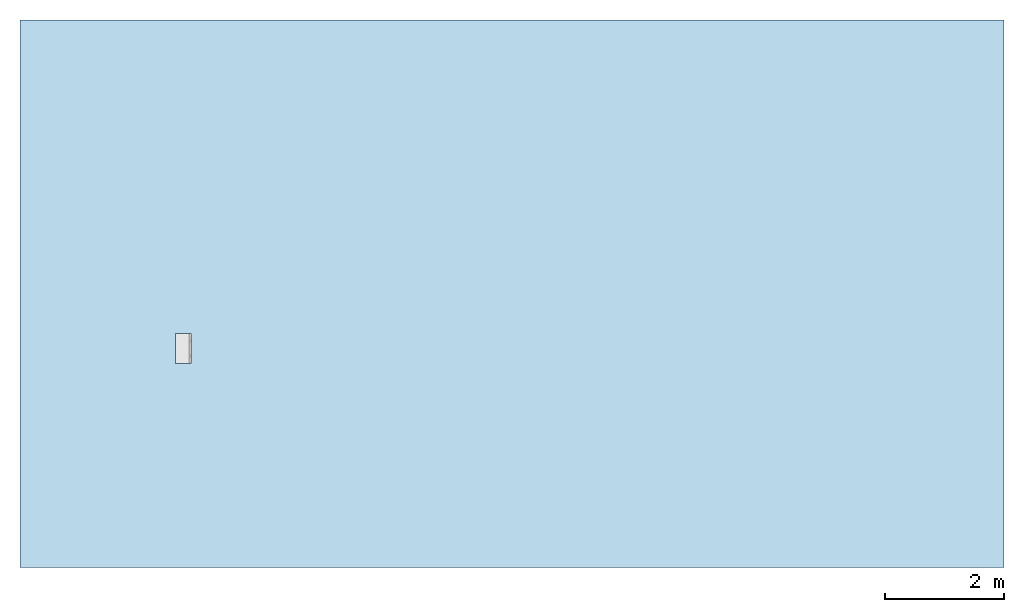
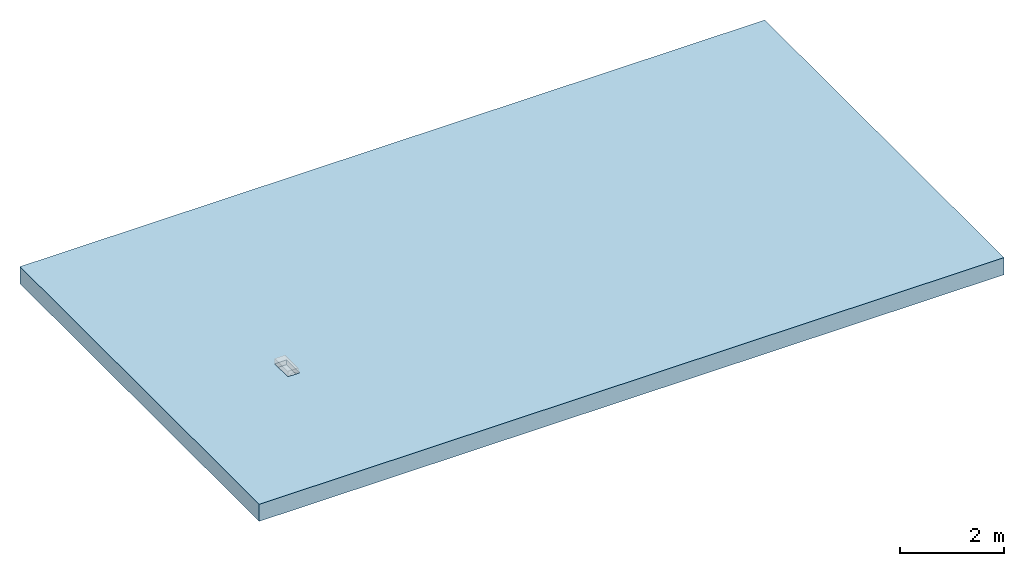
# One storey, part 1 of 2: 1 slab, 1 opening.
"""IFC2X3 building model written with IfcOpenShell, lengths in millimetres."""

from ifc_helpers import new_model, entity, si_unit, converted_unit, direction, frame, frame_2d, origin, origin_2d_with_axis, place, context, subcontext, project, spatial, rectangle, extrude, material, layer, layer_set, layer_usage, element, save


model = new_model("IFC2X3")

# Units and contexts
model_context = context("Model", 3, precision=1e-06, world=origin(), true_north=direction((2.0, 6.12303176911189e-17, 1.0)))
context_of_model = context(None, 3, precision=1e-06, world=origin(), true_north=direction((2.0, 6.12303176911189e-17, 1.0)))
body_context = subcontext(model_context, "Body", "Model", "MODEL_VIEW")
ifc_project = project(units=[si_unit("LENGTHUNIT", "METRE", prefix="MILLI"), si_unit("AREAUNIT", "SQUARE_METRE", prefix="MILLI"), si_unit("VOLUMEUNIT", "CUBIC_METRE", prefix="MILLI"), converted_unit("PLANEANGLEUNIT", "DEGREE", entity("IfcRatioMeasure", 0.0174532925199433), si_unit("PLANEANGLEUNIT", "RADIAN"), dimensions=[0, 0, 0, 0, 0, 0, 0]), si_unit("TIMEUNIT", "SECOND")], contexts=[model_context, context_of_model])

# Site, building, storey
site_placement = place(None, origin())
site = spatial("IfcSite", under=ifc_project, at=site_placement, Name="Default", CompositionType="ELEMENT")
building_placement = place(site_placement, origin())
building = spatial("IfcBuilding", under=site, at=building_placement, CompositionType="ELEMENT")
storey_placement = place(building_placement, origin())
storey = spatial("IfcBuildingStorey", under=building, at=storey_placement, Name="Level 1", CompositionType="ELEMENT", Elevation=0.0)

# Slab, opening
ifc_material = material(Name="Plant")
ifc_layer = layer(ifc_material, 400.0)
ifc_layer_set = layer_set([ifc_layer], Name="Floor:Generic Floor - 400mm")
ifc_layer_usage = layer_usage(ifc_layer_set, "AXIS3", "POSITIVE", 0.0)
slab_placement = place(storey_placement, frame((-17967.0691536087, -3738.31688706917, -400.0)))
slab = element("IfcSlab", 1, at=slab_placement, inside=storey, material=ifc_layer_usage, Name="Floor:Generic Floor - 400mm", ObjectType="Floor:Generic Floor - 400mm", PredefinedType="FLOOR", context=body_context, shape_type="SweptSolid", body=[
    extrude(rectangle(XDim=9180.0, YDim=16500.0, at=frame_2d((0.0, 0.0), x_axis=(0.0, -1.0))), frame((8250.0, 4590.0, 400.0), z_axis=(0.0, 0.0, -1.0), x_axis=(-1.0, 0.0, 0.0)), (0.0, 0.0, 1.0), 400.0),
])
opening_placement = place(slab_placement, origin())
element("IfcOpeningElement", 2, at=opening_placement, cuts=slab, ObjectType="Recess", context=body_context, shape_type="SweptSolid", body=[
    extrude(rectangle(XDim=259.999999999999, YDim=500.000000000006, at=origin_2d_with_axis()), frame((2737.91502003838, 3671.65763662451, 290.0)), (0.0, 0.0, 1.0), 110.0),
])

save(model, "model.ifc")
